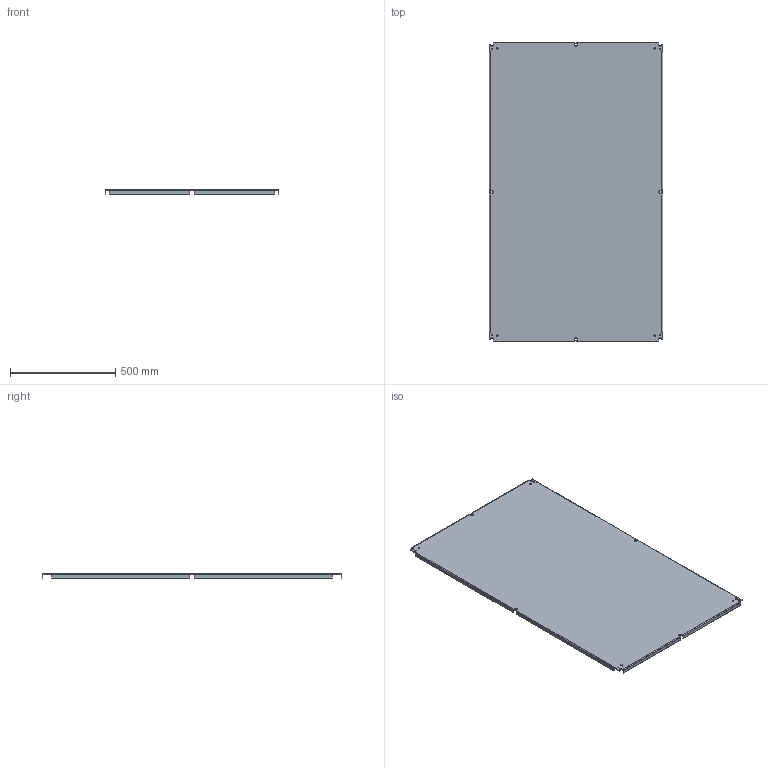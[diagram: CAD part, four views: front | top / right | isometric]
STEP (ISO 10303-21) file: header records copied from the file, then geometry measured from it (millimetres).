
FILE_DESCRIPTION (( 'STEP AP203' ), '1' );
FILE_NAME ('ep15090al.STEP', '2013-09-11T16:33:01', ( 'User' ), ( 'Pentair Inc' ), 'SwSTEP 2.0', 'SolidWorks 2010', '' );
FILE_SCHEMA (( 'CONFIG_CONTROL_DESIGN' ));
Length unit declared in the file: inch
Products named in the file (2): ep15090al; 87554480
Assembly tree (1 placements, depth 2):
  ep15090al
    87554480
Bounding box: 826.08 x 1426.08 x 19.05 mm (x, y, z)
Volume: 3928971.9 mm3; surface area: 2491448.9 mm2
Topology: 1 solids, 1 shells, 222 faces, 576 edges, 368 vertices
Faces by surface type: plane 170, cylinder 52
Entity records: 6912 total; most frequent: CARTESIAN_POINT 1170, ORIENTED_EDGE 1152, DIRECTION 1132, EDGE_CURVE 576, LINE 472, VECTOR 472, VERTEX_POINT 368, AXIS2_PLACEMENT_3D 330
